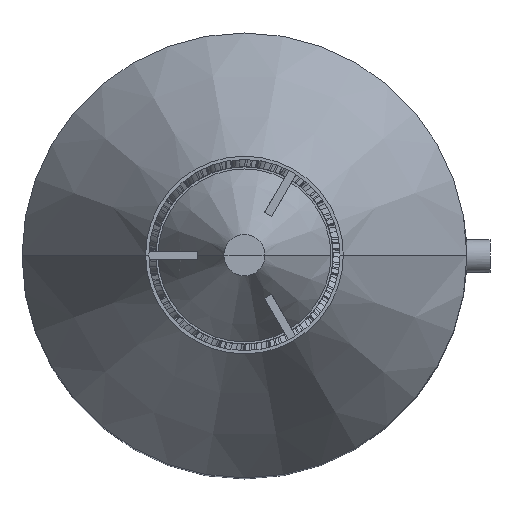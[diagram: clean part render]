
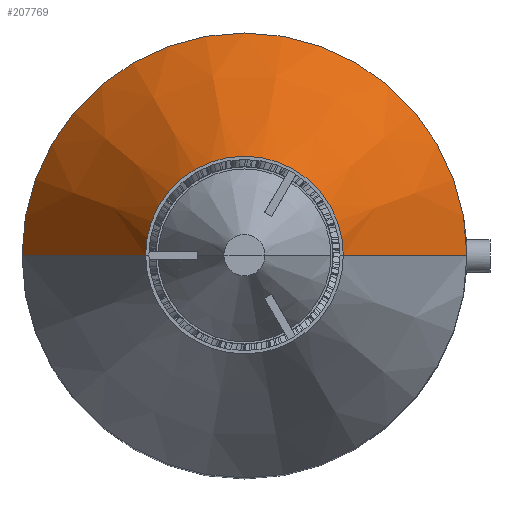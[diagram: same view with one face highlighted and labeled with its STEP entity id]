
A CAD part, top view. The second image highlights one B-rep face of the part: STEP entity #207769.
In plain terms, the highlighted conical face has half-angle 28.61 degrees and reference radius 0 mm.
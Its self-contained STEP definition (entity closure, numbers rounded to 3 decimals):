
#205567=CARTESIAN_POINT('',(54.0,0.0,175.0));
#205568=CARTESIAN_POINT('',(-54.0,0.0,175.0));
#205569=CARTESIAN_POINT('',(24.0,0.0,230.0));
#205570=CARTESIAN_POINT('',(-24.0,0.0,230.0));
#206605=CARTESIAN_POINT('',(0.0,0.0,175.0));
#206606=DIRECTION('',(0.0,0.0,1.0));
#206607=DIRECTION('',(1.0,0.0,0.0));
#206608=AXIS2_PLACEMENT_3D('',#206605,#206606,#206607);
#206609=CIRCLE('',#206608,54.0);
#206610=TRIMMED_CURVE('',#206609,(#205567),(#205568),.T.,.CARTESIAN.);
#206632=DIRECTION('',(0.479,0.0,0.878));
#206633=VECTOR('',#206632,1.0);
#206634=LINE('',#205568,#206633);
#206635=CARTESIAN_POINT('',(0.0,0.0,230.0));
#206636=DIRECTION('',(0.0,0.0,1.0));
#206637=DIRECTION('',(1.0,0.0,0.0));
#206638=AXIS2_PLACEMENT_3D('',#206635,#206636,#206637);
#206639=CIRCLE('',#206638,24.0);
#206640=TRIMMED_CURVE('',#206639,(#205569),(#205570),.T.,.CARTESIAN.);
#206641=DIRECTION('',(-0.479,0.0,0.878));
#206642=VECTOR('',#206641,1.0);
#206643=LINE('',#205567,#206642);
#206797=CARTESIAN_POINT('',(0.0,0.0,274.0));
#206798=DIRECTION('',(0.0,0.0,-1.0));
#206799=DIRECTION('',(0.0,1.0,0.0));
#206800=AXIS2_PLACEMENT_3D('',#206797,#206798,#206799);
#206801=CONICAL_SURFACE('',#206800,0.0,0.499);
#206943=VERTEX_POINT('',#205567);
#206944=VERTEX_POINT('',#205568);
#206945=VERTEX_POINT('',#205569);
#206946=VERTEX_POINT('',#205570);
#207221=EDGE_CURVE('',#206943,#206944,#206610,.T.);
#207226=EDGE_CURVE('',#206944,#206946,#206634,.T.);
#207227=EDGE_CURVE('',#206945,#206946,#206640,.T.);
#207228=EDGE_CURVE('',#206943,#206945,#206643,.T.);
#207583=ORIENTED_EDGE('',*,*,#207221,.T.);
#207584=ORIENTED_EDGE('',*,*,#207226,.T.);
#207585=ORIENTED_EDGE('',*,*,#207227,.F.);
#207586=ORIENTED_EDGE('',*,*,#207228,.F.);
#207703=EDGE_LOOP('',(#207583,#207584,#207585,#207586));
#207737=FACE_OUTER_BOUND('',#207703,.T.);
#207769=ADVANCED_FACE('',(#207737),#206801,.T.);
